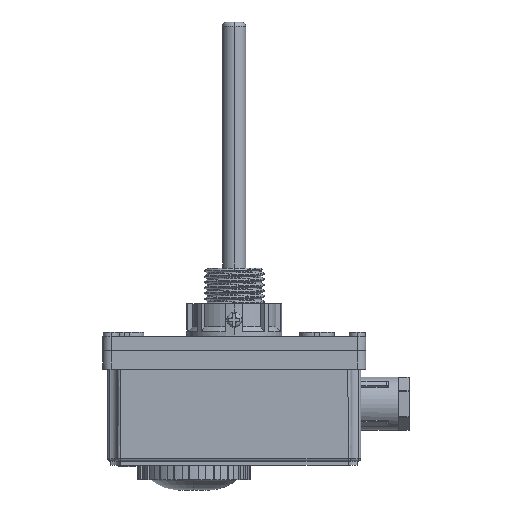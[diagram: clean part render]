
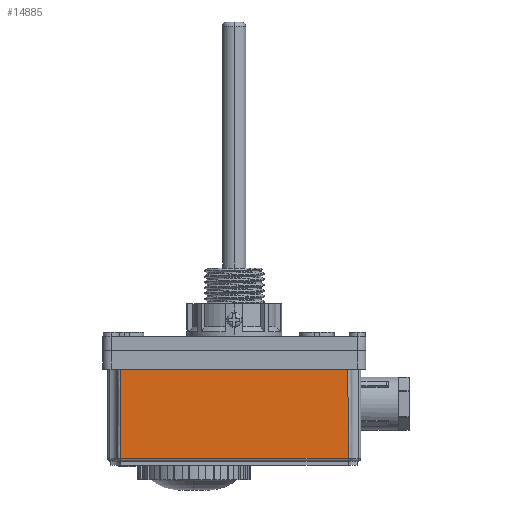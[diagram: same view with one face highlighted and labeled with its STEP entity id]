
A CAD part, left-side view. The second image highlights one B-rep face of the part: STEP entity #14885.
In plain terms, the highlighted planar face has unit normal (-1, 0, -0.018).
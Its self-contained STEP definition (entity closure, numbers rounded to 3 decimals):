
#1226 = CARTESIAN_POINT ( 'NONE',  ( -25.517, 39.609, 0.983 ) ) ;
#1368 = CARTESIAN_POINT ( 'NONE',  ( -25.517, -39.609, 0.983 ) ) ;
#1725 = VECTOR ( 'NONE', #14785, 1000. ) ;
#1766 =( BOUNDED_CURVE ( )  B_SPLINE_CURVE ( 3, ( #1368, #8683, #10082, #16522 ),
 .UNSPECIFIED., .F., .F. ) 
 B_SPLINE_CURVE_WITH_KNOTS ( ( 4, 4 ),
 ( 1.351, 1.473 ),
 .UNSPECIFIED. ) 
 CURVE ( )  GEOMETRIC_REPRESENTATION_ITEM ( )  RATIONAL_B_SPLINE_CURVE ( ( 1., 0.999, 0.999, 1. ) ) 
 REPRESENTATION_ITEM ( '' )  );
#1833 = ORIENTED_EDGE ( 'NONE', *, *, #17861, .T. ) ;
#1900 = ORIENTED_EDGE ( 'NONE', *, *, #13361, .T. ) ;
#1973 = DIRECTION ( 'NONE',  ( -0.017, 0., 1. ) ) ;
#2052 = ORIENTED_EDGE ( 'NONE', *, *, #4603, .T. ) ;
#2691 = EDGE_LOOP ( 'NONE', ( #1833, #2052, #3953, #1900 ) ) ;
#2997 = CARTESIAN_POINT ( 'NONE',  ( -26.059, 42.5, 32. ) ) ;
#3449 = PLANE ( 'NONE',  #14495 ) ;
#3743 = CARTESIAN_POINT ( 'NONE',  ( -26.059, -39.522, 32. ) ) ;
#3953 = ORIENTED_EDGE ( 'NONE', *, *, #8229, .F. ) ;
#4603 = EDGE_CURVE ( 'NONE', #16141, #11313, #1766, .T. ) ;
#5274 = CARTESIAN_POINT ( 'NONE',  ( -26.059, 39.522, 32. ) ) ;
#6394 = CARTESIAN_POINT ( 'NONE',  ( -26.059, 39.522, 32. ) ) ;
#6698 = FACE_OUTER_BOUND ( 'NONE', #2691, .T. ) ;
#6850 = CARTESIAN_POINT ( 'NONE',  ( -25.517, 39.609, 0.983 ) ) ;
#8229 = EDGE_CURVE ( 'NONE', #14906, #11313, #19543, .T. ) ;
#8683 = CARTESIAN_POINT ( 'NONE',  ( -25.696, -39.569, 11.214 ) ) ;
#9110 = VERTEX_POINT ( 'NONE', #1226 ) ;
#9677 = DIRECTION ( 'NONE',  ( -1., 0., -0.017 ) ) ;
#10082 = CARTESIAN_POINT ( 'NONE',  ( -25.876, -39.54, 21.566 ) ) ;
#10970 = CARTESIAN_POINT ( 'NONE',  ( -25.5, 42.5, 0. ) ) ;
#11300 = DIRECTION ( 'NONE',  ( 0., -1., 0. ) ) ;
#11313 = VERTEX_POINT ( 'NONE', #3743 ) ;
#11444 = CARTESIAN_POINT ( 'NONE',  ( -25.517, -39.609, 0.983 ) ) ;
#12836 = CARTESIAN_POINT ( 'NONE',  ( -25.696, 39.569, 11.214 ) ) ;
#13361 = EDGE_CURVE ( 'NONE', #14906, #9110, #18715, .T. ) ;
#14202 = VECTOR ( 'NONE', #11300, 1000. ) ;
#14495 = AXIS2_PLACEMENT_3D ( 'NONE', #10970, #9677, #1973 ) ;
#14785 = DIRECTION ( 'NONE',  ( 0., -1., 0. ) ) ;
#14885 = ADVANCED_FACE ( 'NONE', ( #6698 ), #3449, .T. ) ;
#14906 = VERTEX_POINT ( 'NONE', #6394 ) ;
#16141 = VERTEX_POINT ( 'NONE', #11444 ) ;
#16522 = CARTESIAN_POINT ( 'NONE',  ( -26.059, -39.522, 32. ) ) ;
#17537 = CARTESIAN_POINT ( 'NONE',  ( -25.517, 42.5, 0.983 ) ) ;
#17564 = CARTESIAN_POINT ( 'NONE',  ( -25.876, 39.54, 21.566 ) ) ;
#17861 = EDGE_CURVE ( 'NONE', #9110, #16141, #18943, .T. ) ;
#18715 =( BOUNDED_CURVE ( )  B_SPLINE_CURVE ( 3, ( #5274, #17564, #12836, #6850 ),
 .UNSPECIFIED., .F., .F. ) 
 B_SPLINE_CURVE_WITH_KNOTS ( ( 4, 4 ),
 ( 4.811, 4.933 ),
 .UNSPECIFIED. ) 
 CURVE ( )  GEOMETRIC_REPRESENTATION_ITEM ( )  RATIONAL_B_SPLINE_CURVE ( ( 1., 0.999, 0.999, 1. ) ) 
 REPRESENTATION_ITEM ( '' )  );
#18943 = LINE ( 'NONE', #17537, #14202 ) ;
#19543 = LINE ( 'NONE', #2997, #1725 ) ;
